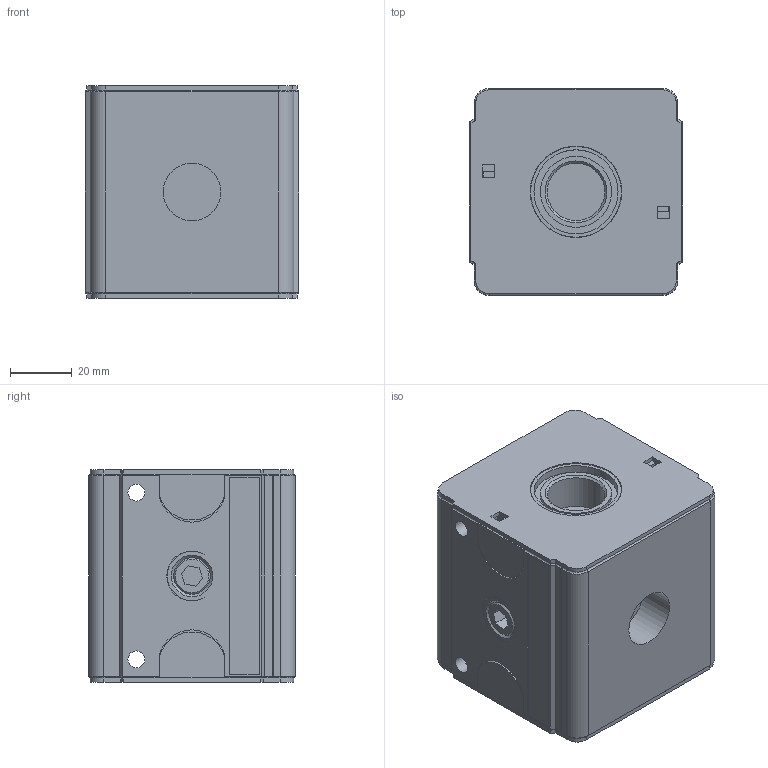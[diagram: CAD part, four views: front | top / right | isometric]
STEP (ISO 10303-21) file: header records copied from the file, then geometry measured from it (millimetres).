
FILE_DESCRIPTION((''),'2;1');
FILE_NAME('K:\ZEICHNG\Kunden Modelle\Multifix Steps\NL.4\T.33.stp','2010-04-27T10:44:38',('DDruske'),(''),'Autodesk Inventor 2009','Autodesk Inventor 2009','');
FILE_SCHEMA(('AUTOMOTIVE_DESIGN { 1 0 10303 214 1 1 1 1 }'));
Length unit declared in the file: millimetre
Products named in the file (1): Bauteil4
Bounding box: 69.2 x 67 x 68.8 mm (x, y, z)
Volume: 249388.2 mm3; surface area: 59241.3 mm2
Topology: 1 solids, 1 shells, 367 faces, 958 edges, 603 vertices
Faces by surface type: plane 200, bspline 95, cylinder 63, cone 5, torus 4
Full cylindrical faces by diameter (mm): 5.5 x1, 11.8 x1, 23 x1, 27.2 x2, 29.4 x1, 29.6 x2
Entity records: 11682 total; most frequent: CARTESIAN_POINT 2557, ORIENTED_EDGE 1866, DIRECTION 1632, EDGE_CURVE 933, VECTOR 772, LINE 772, VERTEX_POINT 597, AXIS2_PLACEMENT_3D 430
